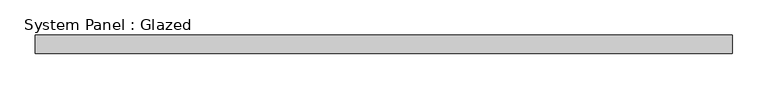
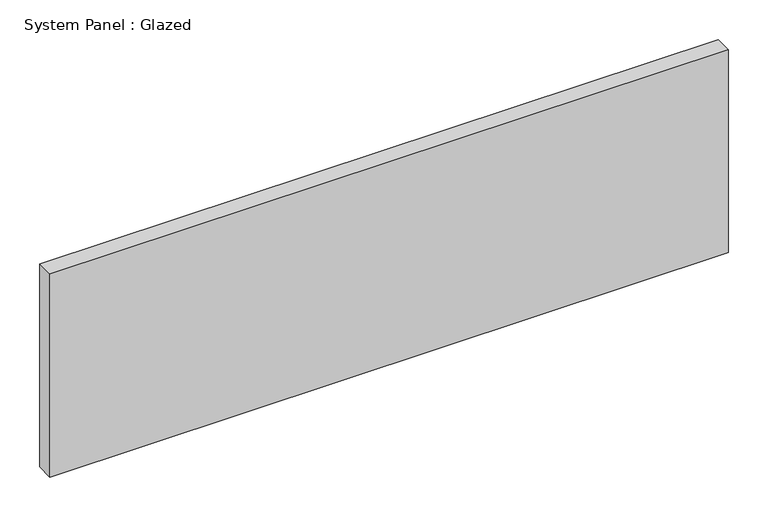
"""IFC4 building model written with IfcOpenShell, lengths in millimetres: plate geometry, System Panel : Glazed."""

from ifc_helpers import new_model, si_unit, origin, origin_with_axes, place, context, project, spatial, polyline, outline, extrude, source, transform, mapped, element, save


def system_panel_glazed_9e465c3d(model_context):
    return source(origin(), model_context, "Body", "SweptSolid", [
        extrude(outline(polyline([(490.9910714, 19.05), (-490.9910714, 19.05), (-490.9910714, 44.45), (490.9910714, 44.45), (490.9910714, 19.05)])), origin_with_axes(), (0.0, 0.0, 1.0), 310.8709562),
    ])


if __name__ == "__main__":
    model = new_model("IFC4")
    model_context = context("Model", 3, world=origin())
    ifc_project = project(units=[si_unit("LENGTHUNIT", "METRE", prefix="MILLI")], contexts=[model_context])
    site = spatial("IfcSite", under=ifc_project)
    building = spatial("IfcBuilding", under=site)
    placement = place(None, origin())
    system_panel_glazed_shape = system_panel_glazed_9e465c3d(model_context)
    element("IfcPlate", 1, ObjectType="System Panel : Glazed", at=placement, inside=building, context=model_context, shape_type="MappedRepresentation", body=[
        mapped(system_panel_glazed_shape, transform((0.0, 0.0, 0.0), x_axis=(1.0, 0.0, 0.0), y_axis=(0.0, 1.0, 0.0), z_axis=(0.0, 0.0, 1.0))),
    ])
    save(model, "model.ifc")
